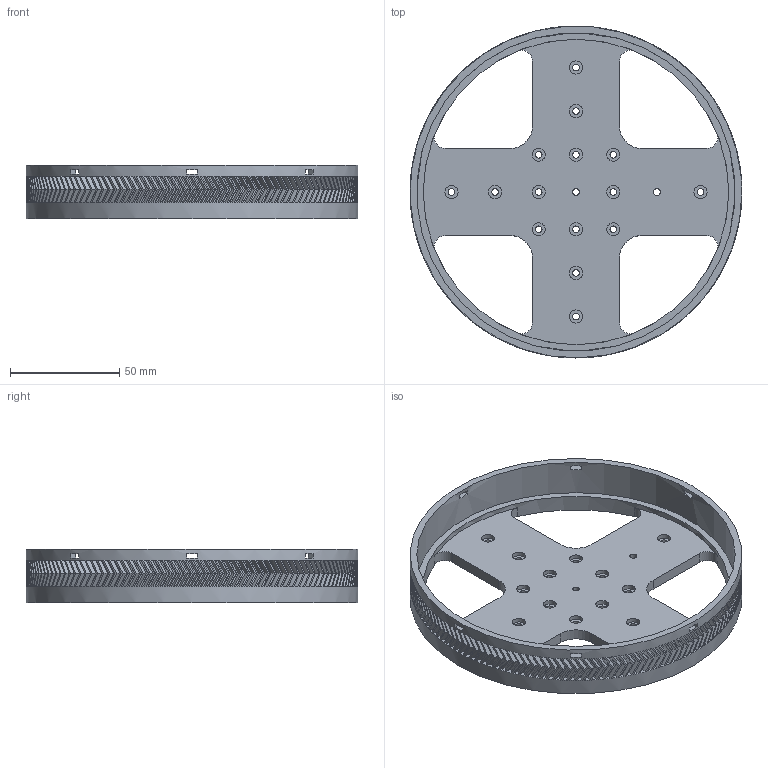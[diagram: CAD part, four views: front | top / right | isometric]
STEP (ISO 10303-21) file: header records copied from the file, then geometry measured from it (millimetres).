
FILE_DESCRIPTION(/* description */ (''),/* implementation_level */ '2;1');
FILE_NAME(/* name */ 'D:\Documents\Projects\Pan Tilt Mount\CAD STEP files\144 Tooth Herringbone Gear Base Mount.stp',/* time_stamp */ '2020-06-08T18:41:09+01:00',/* author */ ('isaac879'),/* organization */ (''),/* preprocessor_version */ 'ST-DEVELOPER v18',/* originating_system */ 'Autodesk Inventor 2020',/* authorisation */ '');
FILE_SCHEMA (('AUTOMOTIVE_DESIGN { 1 0 10303 214 3 1 1 }'));
Products named in the file (1): 144 Tooth Herringbone Gear Base Mount
Bounding box: 152.13 x 152.13 x 24.5 mm (x, y, z)
Volume: 86423.1 mm3; surface area: 56033.5 mm2
Topology: 1 solids, 1 shells, 1259 faces, 3078 edges, 1976 vertices
Faces by surface type: bspline 864, plane 347, cylinder 48
Full cylindrical faces by diameter (mm): 3 x16, 3.2 x1, 6 x15, 140 x1, 146 x1, 152.133 x1
Entity records: 50512 total; most frequent: CARTESIAN_POINT 26918, ORIENTED_EDGE 6156, EDGE_CURVE 3078, B_SPLINE_CURVE_WITH_KNOTS 2452, VERTEX_POINT 1976, DIRECTION 1902, EDGE_LOOP 1472, FACE_OUTER_BOUND 1259
